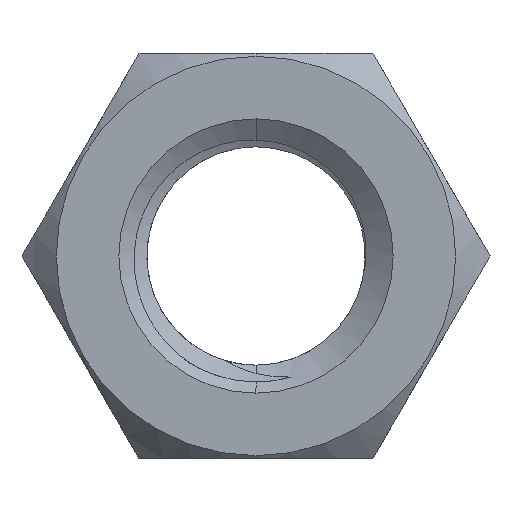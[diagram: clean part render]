
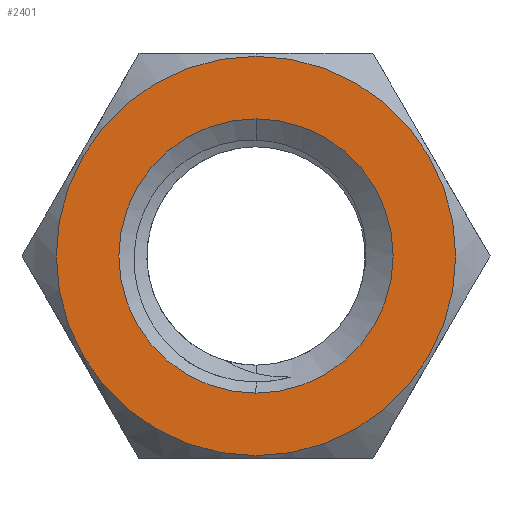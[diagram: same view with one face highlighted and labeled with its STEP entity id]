
A CAD part, front view. The second image highlights one B-rep face of the part: STEP entity #2401.
In plain terms, the highlighted planar face has unit normal (0, -1, 0).
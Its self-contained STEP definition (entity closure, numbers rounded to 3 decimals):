
#31 = VERTEX_POINT ( 'NONE', #600 ) ;
#267 = ORIENTED_EDGE ( 'NONE', *, *, #2123, .T. ) ;
#412 = CARTESIAN_POINT ( 'NONE',  ( 0., -3.25, 0. ) ) ;
#600 = CARTESIAN_POINT ( 'NONE',  ( 0., -3.25, -6.406 ) ) ;
#608 = AXIS2_PLACEMENT_3D ( 'NONE', #1339, #2412, #719 ) ;
#625 = DIRECTION ( 'NONE',  ( 0., 0., -1. ) ) ;
#693 = PLANE ( 'NONE',  #608 ) ;
#719 = DIRECTION ( 'NONE',  ( 0., 0., 1. ) ) ;
#763 = CARTESIAN_POINT ( 'NONE',  ( 0., -3.25, 0. ) ) ;
#792 = ORIENTED_EDGE ( 'NONE', *, *, #1527, .F. ) ;
#828 = AXIS2_PLACEMENT_3D ( 'NONE', #1032, #2320, #1909 ) ;
#968 = DIRECTION ( 'NONE',  ( 0., 0., -1. ) ) ;
#1032 = CARTESIAN_POINT ( 'NONE',  ( 0., -3.25, 0. ) ) ;
#1051 = AXIS2_PLACEMENT_3D ( 'NONE', #412, #2557, #625 ) ;
#1061 = VERTEX_POINT ( 'NONE', #2122 ) ;
#1222 = ORIENTED_EDGE ( 'NONE', *, *, #2496, .F. ) ;
#1229 = AXIS2_PLACEMENT_3D ( 'NONE', #763, #2069, #968 ) ;
#1268 = EDGE_LOOP ( 'NONE', ( #792, #1222 ) ) ;
#1300 = CARTESIAN_POINT ( 'NONE',  ( 0., -3.25, 0. ) ) ;
#1301 = CARTESIAN_POINT ( 'NONE',  ( 0., -3.25, 4.4 ) ) ;
#1325 = AXIS2_PLACEMENT_3D ( 'NONE', #1300, #2143, #2725 ) ;
#1326 = FACE_OUTER_BOUND ( 'NONE', #2770, .T. ) ;
#1339 = CARTESIAN_POINT ( 'NONE',  ( 0., -3.25, 0. ) ) ;
#1527 = EDGE_CURVE ( 'NONE', #2110, #1061, #2160, .T. ) ;
#1548 = ORIENTED_EDGE ( 'NONE', *, *, #1611, .T. ) ;
#1602 = CARTESIAN_POINT ( 'NONE',  ( 0., -3.25, 6.406 ) ) ;
#1611 = EDGE_CURVE ( 'NONE', #31, #2696, #2606, .T. ) ;
#1723 = CIRCLE ( 'NONE', #1229, 4.4 ) ;
#1909 = DIRECTION ( 'NONE',  ( 0., 0., -1. ) ) ;
#2069 = DIRECTION ( 'NONE',  ( 0., -1., 0. ) ) ;
#2110 = VERTEX_POINT ( 'NONE', #1301 ) ;
#2122 = CARTESIAN_POINT ( 'NONE',  ( 0., -3.25, -4.4 ) ) ;
#2123 = EDGE_CURVE ( 'NONE', #2696, #31, #2562, .T. ) ;
#2143 = DIRECTION ( 'NONE',  ( 0., -1., 0. ) ) ;
#2160 = CIRCLE ( 'NONE', #828, 4.4 ) ;
#2320 = DIRECTION ( 'NONE',  ( 0., -1., 0. ) ) ;
#2387 = FACE_BOUND ( 'NONE', #1268, .T. ) ;
#2401 = ADVANCED_FACE ( 'NONE', ( #2387, #1326 ), #693, .F. ) ;
#2412 = DIRECTION ( 'NONE',  ( 0., 1., 0. ) ) ;
#2496 = EDGE_CURVE ( 'NONE', #1061, #2110, #1723, .T. ) ;
#2557 = DIRECTION ( 'NONE',  ( 0., -1., 0. ) ) ;
#2562 = CIRCLE ( 'NONE', #1051, 6.406 ) ;
#2606 = CIRCLE ( 'NONE', #1325, 6.406 ) ;
#2696 = VERTEX_POINT ( 'NONE', #1602 ) ;
#2725 = DIRECTION ( 'NONE',  ( 0., 0., -1. ) ) ;
#2770 = EDGE_LOOP ( 'NONE', ( #267, #1548 ) ) ;
